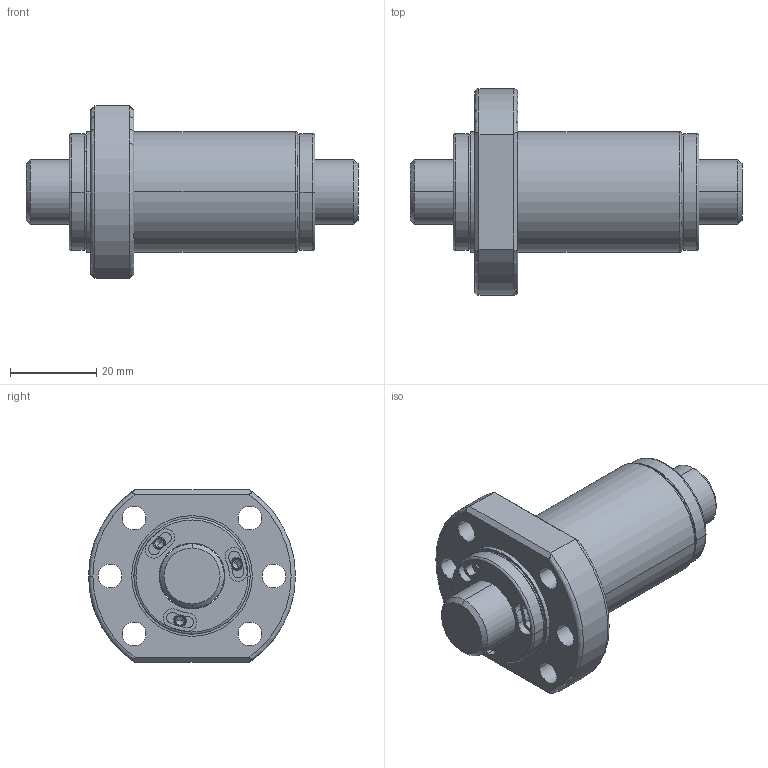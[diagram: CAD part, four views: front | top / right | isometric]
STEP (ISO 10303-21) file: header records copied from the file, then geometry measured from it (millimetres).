
FILE_DESCRIPTION (( 'STEP AP203' ), '1' );
FILE_NAME ('SFHR01620A1D-C.STEP', '2020-06-17T07:56:18', ( '' ), ( '' ), 'SwSTEP 2.0', 'SolidWorks 2013', '' );
FILE_SCHEMA (( 'CONFIG_CONTROL_DESIGN' ));
Length unit declared in the file: millimetre
Products named in the file (1): SFHR01620A1D-C
Bounding box: 77 x 48 x 40 mm (x, y, z)
Volume: 44359.8 mm3; surface area: 16876.9 mm2
Topology: 2 solids, 2 shells, 224 faces, 531 edges, 328 vertices
Faces by surface type: cylinder 127, plane 57, cone 28, torus 12
Entity records: 6824 total; most frequent: CARTESIAN_POINT 1320, DIRECTION 1299, ORIENTED_EDGE 1038, AXIS2_PLACEMENT_3D 567, EDGE_CURVE 519, CIRCLE 342, VERTEX_POINT 328, EDGE_LOOP 269
